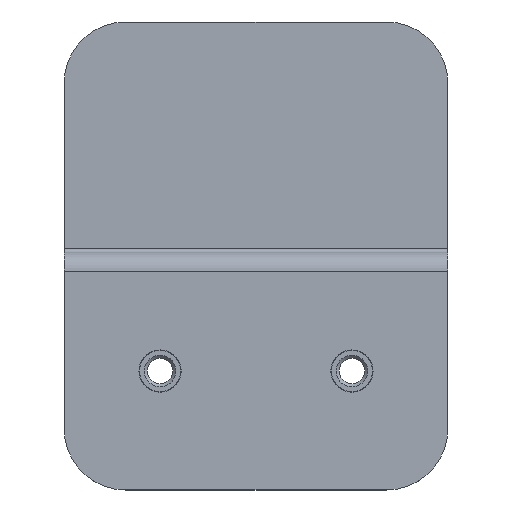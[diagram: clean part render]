
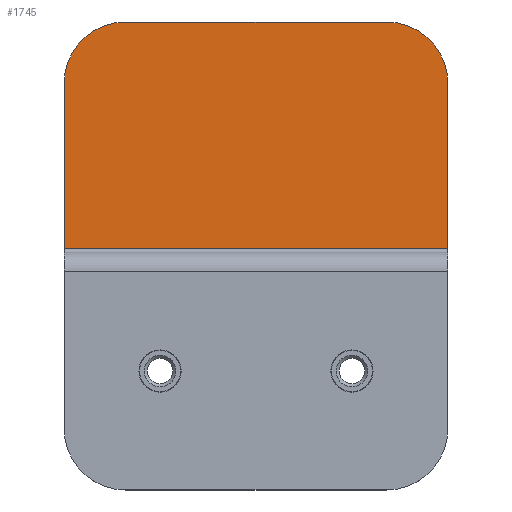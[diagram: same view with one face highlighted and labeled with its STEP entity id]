
A CAD part, top view. The second image highlights one B-rep face of the part: STEP entity #1745.
In plain terms, the highlighted planar face has unit normal (0, 0, 1).
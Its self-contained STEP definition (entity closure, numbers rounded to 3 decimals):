
#139 = CARTESIAN_POINT ( 'NONE',  ( -25., 262., -20. ) ) ;
#149 = DIRECTION ( 'NONE',  ( 0., -1., 0. ) ) ;
#174 = VERTEX_POINT ( 'NONE', #2204 ) ;
#263 = EDGE_CURVE ( 'NONE', #3163, #4891, #1064, .T. ) ;
#293 = AXIS2_PLACEMENT_3D ( 'NONE', #4441, #2514, #1804 ) ;
#367 = EDGE_CURVE ( 'NONE', #4891, #174, #3305, .T. ) ;
#499 = EDGE_CURVE ( 'NONE', #2030, #4024, #1861, .T. ) ;
#830 = VECTOR ( 'NONE', #4785, 1000. ) ;
#904 = CARTESIAN_POINT ( 'NONE',  ( -25., 270., -20. ) ) ;
#953 = EDGE_LOOP ( 'NONE', ( #1552, #2781, #4262, #3857, #1690, #3317 ) ) ;
#1064 = CIRCLE ( 'NONE', #2322, 8. ) ;
#1085 = CARTESIAN_POINT ( 'NONE',  ( 25., 262., -20. ) ) ;
#1228 = LINE ( 'NONE', #904, #3754 ) ;
#1552 = ORIENTED_EDGE ( 'NONE', *, *, #4121, .T. ) ;
#1690 = ORIENTED_EDGE ( 'NONE', *, *, #1965, .F. ) ;
#1745 = ADVANCED_FACE ( 'NONE', ( #2871 ), #4050, .F. ) ;
#1804 = DIRECTION ( 'NONE',  ( 0., -1., 0. ) ) ;
#1806 = CARTESIAN_POINT ( 'NONE',  ( 17., 270., -20. ) ) ;
#1861 = CIRCLE ( 'NONE', #4071, 8. ) ;
#1937 = CARTESIAN_POINT ( 'NONE',  ( 17., 262., -20. ) ) ;
#1965 = EDGE_CURVE ( 'NONE', #4024, #3163, #1228, .T. ) ;
#2030 = VERTEX_POINT ( 'NONE', #139 ) ;
#2127 = CARTESIAN_POINT ( 'NONE',  ( 25., 270., -20. ) ) ;
#2204 = CARTESIAN_POINT ( 'NONE',  ( 25., 240.5, -20. ) ) ;
#2322 = AXIS2_PLACEMENT_3D ( 'NONE', #1937, #2324, #149 ) ;
#2324 = DIRECTION ( 'NONE',  ( 0., 0., -1. ) ) ;
#2514 = DIRECTION ( 'NONE',  ( 0., 0., -1. ) ) ;
#2588 = VECTOR ( 'NONE', #4493, 1000. ) ;
#2678 = CARTESIAN_POINT ( 'NONE',  ( -25., 270., -20. ) ) ;
#2776 = CARTESIAN_POINT ( 'NONE',  ( -25., 240.5, -20. ) ) ;
#2781 = ORIENTED_EDGE ( 'NONE', *, *, #4776, .T. ) ;
#2871 = FACE_OUTER_BOUND ( 'NONE', #953, .T. ) ;
#2934 = CARTESIAN_POINT ( 'NONE',  ( -17., 270., -20. ) ) ;
#3008 = CARTESIAN_POINT ( 'NONE',  ( -17., 262., -20. ) ) ;
#3163 = VERTEX_POINT ( 'NONE', #1806 ) ;
#3305 = LINE ( 'NONE', #2127, #830 ) ;
#3317 = ORIENTED_EDGE ( 'NONE', *, *, #499, .F. ) ;
#3330 = DIRECTION ( 'NONE',  ( 0., -1., 0. ) ) ;
#3737 = CARTESIAN_POINT ( 'NONE',  ( -25., 240.5, -20. ) ) ;
#3746 = DIRECTION ( 'NONE',  ( 0., 0., -1. ) ) ;
#3754 = VECTOR ( 'NONE', #4676, 1000. ) ;
#3857 = ORIENTED_EDGE ( 'NONE', *, *, #263, .F. ) ;
#3933 = VECTOR ( 'NONE', #4661, 1000. ) ;
#4024 = VERTEX_POINT ( 'NONE', #2934 ) ;
#4050 = PLANE ( 'NONE',  #293 ) ;
#4071 = AXIS2_PLACEMENT_3D ( 'NONE', #3008, #3746, #3330 ) ;
#4078 = VERTEX_POINT ( 'NONE', #2776 ) ;
#4121 = EDGE_CURVE ( 'NONE', #2030, #4078, #4255, .T. ) ;
#4255 = LINE ( 'NONE', #2678, #3933 ) ;
#4262 = ORIENTED_EDGE ( 'NONE', *, *, #367, .F. ) ;
#4441 = CARTESIAN_POINT ( 'NONE',  ( -25., 270., -20. ) ) ;
#4465 = LINE ( 'NONE', #3737, #2588 ) ;
#4493 = DIRECTION ( 'NONE',  ( 1., 0., 0. ) ) ;
#4661 = DIRECTION ( 'NONE',  ( 0., -1., 0. ) ) ;
#4676 = DIRECTION ( 'NONE',  ( 1., 0., 0. ) ) ;
#4776 = EDGE_CURVE ( 'NONE', #4078, #174, #4465, .T. ) ;
#4785 = DIRECTION ( 'NONE',  ( 0., -1., 0. ) ) ;
#4891 = VERTEX_POINT ( 'NONE', #1085 ) ;
